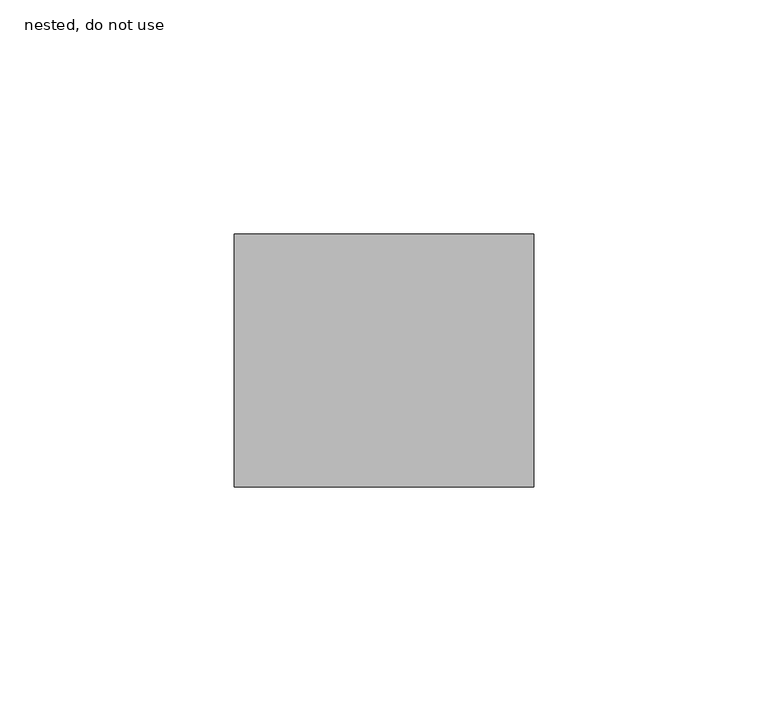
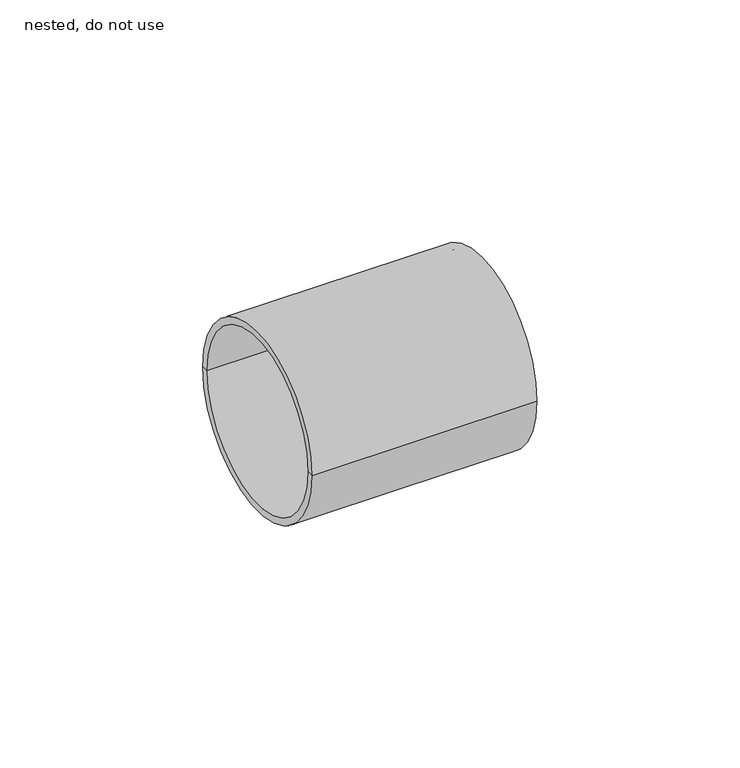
"""IFC4 building model written with IfcOpenShell, lengths in millimetres: pipe fitting geometry, NLRS_52_PIF_UN_Vacurain Flex steekmof_SH_Dyka : nested, do not use."""

from ifc_helpers import new_model, si_unit, frame, origin, place, context, project, spatial, polyline, circle_curve, source, transform, mapped, element, save
from ifc_brep_helpers import plane_surface, cylinder_surface, revolved_surface, advanced_brep


def nested_do_not_use_266bb334(model_context):
    return source(origin(), model_context, "Body", "AdvancedBrep", [
        advanced_brep(
        [(32.0, -27.0, 0.0), (32.0, 27.0, 0.0), (32.0, 25.0, 0.0), (32.0, -25.0, 0.0), (-32.0, -27.0, 0.0), (-32.0, 27.0, 0.0), (-32.0, -25.0, 0.0), (-32.0, 25.0, 0.0), (-1.0, -25.0, 0.0), (-1.0, 25.0, 0.0), (-1.0, 0.0, 0.0), (1.0, -25.0, 0.0), (1.0, 25.0, 0.0), (1.0, 0.0, 0.0)],
        [
            (0, 1, circle_curve(frame((32.0, 0.0, 0.0), z_axis=(1.0, 0.0, 0.0), x_axis=(0.0, 1.0, 0.0)), 27.0)),
            (1, 2),
            (2, 3, circle_curve(frame((32.0, 0.0, 0.0), z_axis=(-1.0, 0.0, 0.0), x_axis=(0.0, 1.0, 0.0)), 25.0)),
            (3, 0),
            (1, 0, circle_curve(frame((32.0, 0.0, 0.0), z_axis=(1.0, 0.0, 0.0), x_axis=(0.0, 1.0, 0.0)), 27.0)),
            (3, 2, circle_curve(frame((32.0, 0.0, 0.0), z_axis=(-1.0, 0.0, 0.0), x_axis=(0.0, 1.0, 0.0)), 25.0)),
            (4, 5, circle_curve(frame((-32.0, 0.0, 0.0), z_axis=(1.0, 0.0, 0.0), x_axis=(0.0, 1.0, 0.0)), 27.0)),
            (5, 1),
            (0, 4),
            (5, 4, circle_curve(frame((-32.0, 0.0, 0.0), z_axis=(1.0, 0.0, 0.0), x_axis=(0.0, 1.0, 0.0)), 27.0)),
            (6, 7, circle_curve(frame((-32.0, 0.0, 0.0), z_axis=(1.0, 0.0, 0.0), x_axis=(0.0, 1.0, 0.0)), 25.0)),
            (7, 5),
            (4, 6),
            (7, 6, circle_curve(frame((-32.0, 0.0, 0.0), z_axis=(1.0, 0.0, 0.0), x_axis=(0.0, 1.0, 0.0)), 25.0)),
            (8, 9, circle_curve(frame((-1.0, 0.0, 0.0), z_axis=(1.0, 0.0, 0.0), x_axis=(0.0, 1.0, 0.0)), 25.0)),
            (9, 7),
            (6, 8),
            (9, 8, circle_curve(frame((-1.0, 0.0, 0.0), z_axis=(1.0, 0.0, 0.0), x_axis=(0.0, 1.0, 0.0)), 25.0)),
            (10, 9),
            (8, 10),
            (11, 12, circle_curve(frame((1.0, 0.0, 0.0), z_axis=(1.0, 0.0, 0.0), x_axis=(0.0, 1.0, 0.0)), 25.0)),
            (12, 13),
            (13, 11),
            (12, 11, circle_curve(frame((1.0, 0.0, 0.0), z_axis=(1.0, 0.0, 0.0), x_axis=(0.0, 1.0, 0.0)), 25.0)),
            (2, 12),
            (11, 3),
        ],
        [
            plane_surface(frame((32.0, 0.0, 0.0), z_axis=(1.0, 0.0, 0.0), x_axis=(0.0, 1.0, 0.0))),
            cylinder_surface(frame((-38.9, 0.0, 0.0), z_axis=(-1.0, 0.0, 0.0), x_axis=(0.0, 1.0, 0.0)), 27.0),
            plane_surface(frame((-32.0, 0.0, 0.0), z_axis=(-1.0, 0.0, 0.0), x_axis=(0.0, 1.0, 0.0))),
            revolved_surface(polyline([(-32.0, 25.0, 0.0), (-1.0, 25.0, 0.0)]), (-38.9, 0.0, 0.0), (-1.0, 0.0, 0.0)),
            plane_surface(frame((-1.0, 0.0, 0.0), z_axis=(-1.0, 0.0, 0.0), x_axis=(0.0, 1.0, 0.0))),
            plane_surface(frame((1.0, 0.0, 0.0), z_axis=(1.0, 0.0, 0.0), x_axis=(0.0, 1.0, 0.0))),
            revolved_surface(polyline([(1.0, 25.0, 0.0), (32.00000000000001, 25.0, 0.0)]), (-38.9, 0.0, 0.0), (-1.0, 0.0, 0.0)),
        ],
        [
            (0, [[1, 2, 3, 4]]),
            (0, [[5, -4, 6, -2]]),
            (1, [[7, 8, -1, 9]]),
            (1, [[10, -9, -5, -8]]),
            (2, [[11, 12, -7, 13]]),
            (2, [[14, -13, -10, -12]]),
            (3, [[15, 16, -11, 17]]),
            (3, [[18, -17, -14, -16]]),
            (4, [[19, -15, 20]]),
            (4, [[-20, -18, -19]]),
            (5, [[21, 22, 23]]),
            (5, [[24, -23, -22]]),
            (6, [[-3, 25, -21, 26]]),
            (6, [[-6, -26, -24, -25]]),
        ],
    ),
    ])


if __name__ == "__main__":
    model = new_model("IFC4")
    model_context = context("Model", 3, world=origin())
    ifc_project = project(units=[si_unit("LENGTHUNIT", "METRE", prefix="MILLI")], contexts=[model_context])
    site = spatial("IfcSite", under=ifc_project)
    building = spatial("IfcBuilding", under=site)
    placement = place(None, origin())
    nested_do_not_use_shape = nested_do_not_use_266bb334(model_context)
    element("IfcPipeFitting", 1, ObjectType="NLRS_52_PIF_UN_Vacurain Flex steekmof_SH_Dyka : nested, do not use", at=placement, inside=building, context=model_context, shape_type="MappedRepresentation", body=[
        mapped(nested_do_not_use_shape, transform((0.0, 0.0, 0.0), x_axis=(1.0, 0.0, 0.0), y_axis=(0.0, 1.0, 0.0), z_axis=(0.0, 0.0, 1.0))),
    ])
    save(model, "model.ifc")
